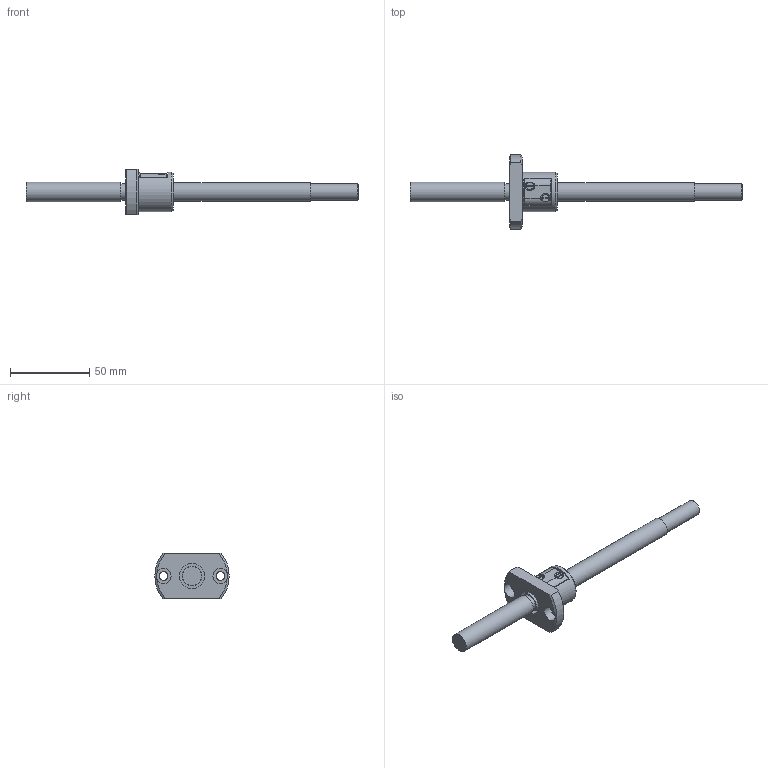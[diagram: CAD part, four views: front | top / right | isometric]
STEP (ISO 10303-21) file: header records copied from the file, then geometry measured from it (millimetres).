
FILE_DESCRIPTION(/* description */ ('STEP AP203'),/* implementation_level */ '2;1');
FILE_NAME(/* name */ 'MBF1202-3.7RRGT+210LC3A(0)',/* time_stamp */ '2024-07-15T08:03:31+02:00',/* author */ ('License CC BY-ND 4.0'),/* organization */ ('CADENAS'),/* preprocessor_version */ 'ST-DEVELOPER v19.3',/* originating_system */ 'PARTsolutions',/* authorisation */ ' ');
FILE_SCHEMA (('CONFIG_CONTROL_DESIGN'));
Length unit declared in the file: millimetre
Products named in the file (3): MBF1202-3.7RRGT+210LC3A(0); MBF1202-3.7RRGT+210LC3A(.0)_shaft; MBF 1202-3.7_nut
Assembly tree (2 placements, depth 2):
  MBF1202-3.7RRGT+210LC3A(0)
    MBF1202-3.7RRGT+210LC3A(.0)_shaft
    MBF 1202-3.7_nut
Bounding box: 210 x 47 x 29 mm (x, y, z)
Volume: 38724.5 mm3; surface area: 14824.6 mm2
Topology: 2 solids, 2 shells, 67 faces, 160 edges, 105 vertices
Faces by surface type: plane 34, cylinder 20, cone 13
Full cylindrical faces by diameter (mm): 5.5 x2, 9.5 x2, 10.2 x2, 12 x2, 12.3 x1, 16 x2, 25 x1
Entity records: 1961 total; most frequent: CARTESIAN_POINT 418, DIRECTION 304, ORIENTED_EDGE 278, EDGE_CURVE 139, AXIS2_PLACEMENT_3D 127, VERTEX_POINT 101, EDGE_LOOP 98, FACE_BOUND 98
